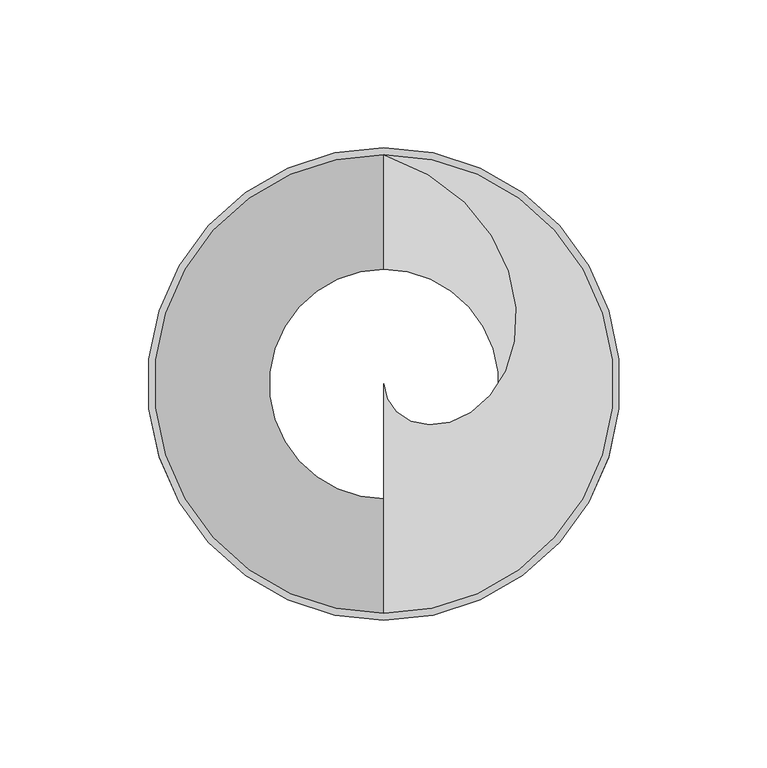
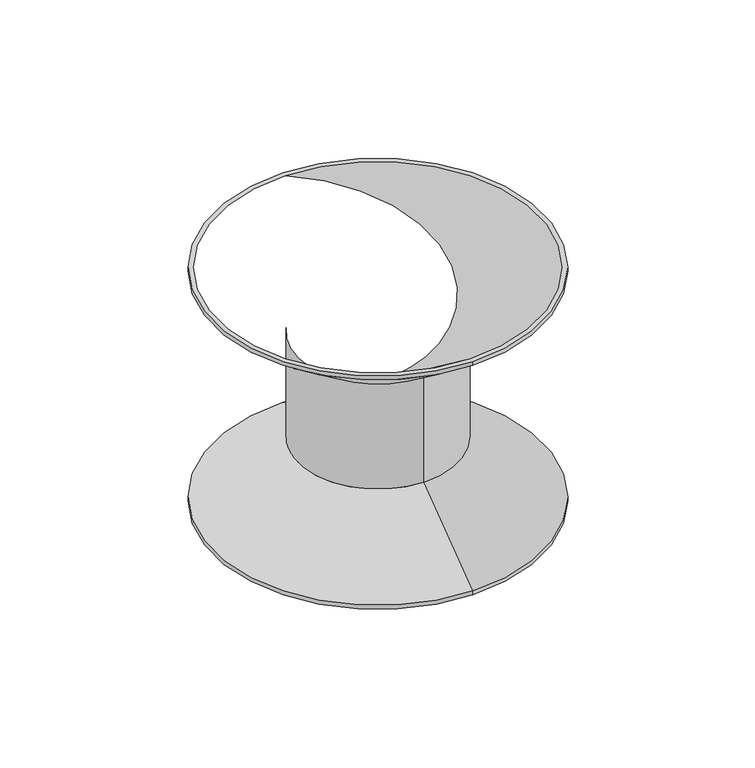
"""IFC4 building model written with IfcOpenShell, lengths in millimetres: proxy geometry, LFLO-MEXX-001."""

import ifcopenshell
import ifcopenshell.guid

model = None  # the IFC model being written
_history = None  # IfcOwnerHistory: only IFC2X3 demands one
_inside = {}  # id of a spatial element -> (the spatial element, [elements in it])
_under = {}  # id of a project, library or spatial element -> (it, [spatial elements below it])
_declared = {}  # id of a project -> (the project, [libraries it declares])
_typed = {}  # id of a type object -> (the type object, [elements of that type])
_made_of = {}  # id of a material, layer set ... -> (it, [elements and type objects made of it])


def new_model(schema):
    """Start an empty IFC model of exactly this schema.

    Asked for "IFC4X3", IfcOpenShell would pick the latest addendum, in which some entities
    have other attributes; the version numbers below select the first issue.
    IFC2X3 requires an IfcOwnerHistory on every rooted entity: one is made here for all.
    """
    global model, _history
    if schema == "IFC4X3":
        model = ifcopenshell.file(schema_version=(4, 3, 0, 0))
    else:
        model = ifcopenshell.file(schema=schema)
    _inside.clear()
    _under.clear()
    _declared.clear()
    _typed.clear()
    _made_of.clear()
    _history = None
    if model.schema == "IFC2X3":
        org = make("IfcOrganization", Name="unknown")
        user = make(
            "IfcPersonAndOrganization",
            ThePerson=make("IfcPerson", FamilyName="unknown"),
            TheOrganization=org,
        )
        app = make(
            "IfcApplication",
            ApplicationDeveloper=org,
            Version="unknown",
            ApplicationFullName="unknown",
            ApplicationIdentifier="unknown",
        )
        _history = make(
            "IfcOwnerHistory",
            OwningUser=user,
            OwningApplication=app,
            ChangeAction="ADDED",
            CreationDate=0,
        )
    return model


def make(cls, **values):
    """One entity of the class cls with the attributes given. An attribute that is None is left unset."""
    return model.create_entity(
        cls, **{name: value for name, value in values.items() if value is not None}
    )


def rooted(cls, **values):
    """An entity with a GlobalId (a new one), such as an element, a storey or a relation."""
    return make(cls, GlobalId=ifcopenshell.guid.new(), OwnerHistory=_history, **values)


def si_unit(unit_type, name, prefix=None):
    """IfcSIUnit, for example si_unit("LENGTHUNIT", "METRE", prefix="MILLI")."""
    return make("IfcSIUnit", UnitType=unit_type, Prefix=prefix, Name=name)


def assignment(units):
    """IfcUnitAssignment: the units of a project."""
    return None if units is None else make("IfcUnitAssignment", Units=units)


def point(xyz):
    """IfcCartesianPoint."""
    return None if xyz is None else make("IfcCartesianPoint", Coordinates=xyz)


def direction(xyz):
    """IfcDirection."""
    return None if xyz is None else make("IfcDirection", DirectionRatios=xyz)


def frame(location, z_axis=None, x_axis=None):
    """IfcAxis2Placement3D, a coordinate frame: its origin and axes. An axis left out is left unset."""
    return make(
        "IfcAxis2Placement3D",
        Location=point(location),
        Axis=direction(z_axis),
        RefDirection=direction(x_axis),
    )


def origin():
    """The frame at (0, 0, 0) with its axes left unset."""
    return frame((0.0, 0.0, 0.0))


def place(relative_to, where):
    """IfcLocalPlacement: puts the frame where relative to a parent placement (None: the world)."""
    return make(
        "IfcLocalPlacement", PlacementRelTo=relative_to, RelativePlacement=where
    )


def context(
    kind, dimensions, precision=None, world=None, true_north=None, identifier=None
):
    """IfcGeometricRepresentationContext, for example the 3D "Model" context."""
    return make(
        "IfcGeometricRepresentationContext",
        ContextIdentifier=identifier,
        ContextType=kind,
        CoordinateSpaceDimension=dimensions,
        Precision=precision,
        WorldCoordinateSystem=world,
        TrueNorth=true_north,
    )


def project(units=None, contexts=None):
    """IfcProject with its units and contexts."""
    return rooted(
        "IfcProject",
        Name="project",
        RepresentationContexts=contexts,
        UnitsInContext=assignment(units),
    )


def spatial(cls, under=None, at=None, **own):
    """A site, building, storey or space (cls), placed at a placement, below another one or the project."""
    s = rooted(cls, ObjectPlacement=at, **own)
    if under is not None:
        _under.setdefault(under.id(), (under, []))[1].append(s)
    return s


def polyline(points):
    """IfcPolyline through the points."""
    return make("IfcPolyline", Points=[point(p) for p in points])


def circle_curve(where, radius):
    """IfcCircle in the frame where."""
    return make("IfcCircle", Position=where, Radius=radius)


def shape(context_of_items, identifier, shape_type, items):
    """IfcShapeRepresentation: the items that make up one representation, for example the "Body"."""
    return make(
        "IfcShapeRepresentation",
        ContextOfItems=context_of_items,
        RepresentationIdentifier=identifier,
        RepresentationType=shape_type,
        Items=items,
    )


def source(mapping_origin, context_of_items, identifier, shape_type, items):
    """IfcRepresentationMap: a shape defined once, which mapped items show again and again."""
    return make(
        "IfcRepresentationMap",
        MappingOrigin=mapping_origin,
        MappedRepresentation=shape(context_of_items, identifier, shape_type, items),
    )


def transform(
    local_origin,
    x_axis=None,
    y_axis=None,
    z_axis=None,
    scale=None,
    scale2=None,
    scale3=None,
    uniform=True,
):
    """IfcCartesianTransformationOperator3D, or its non-uniform kind. x_axis, y_axis, z_axis: its Axis1, 2, 3."""
    if uniform:
        return make(
            "IfcCartesianTransformationOperator3D",
            Axis1=direction(x_axis),
            Axis2=direction(y_axis),
            LocalOrigin=point(local_origin),
            Scale=scale,
            Axis3=direction(z_axis),
        )
    return make(
        "IfcCartesianTransformationOperator3DnonUniform",
        Axis1=direction(x_axis),
        Axis2=direction(y_axis),
        LocalOrigin=point(local_origin),
        Scale=scale,
        Axis3=direction(z_axis),
        Scale2=scale2,
        Scale3=scale3,
    )


def mapped(mapping_source, mapping_target):
    """IfcMappedItem: shows the shape of a source again, moved by a transform."""
    return make(
        "IfcMappedItem", MappingSource=mapping_source, MappingTarget=mapping_target
    )


def made_of(thing, what):
    """Note that an element or type object is made of a material, layer set ...; save() writes the relation."""
    if what is not None:
        _made_of.setdefault(what.id(), (what, []))[1].append(thing)
    return thing


def element(
    cls,
    number,
    at=None,
    inside=None,
    cuts=None,
    type_object=None,
    material=None,
    context=None,
    identifier="Body",
    shape_type=None,
    held_by="IfcProductDefinitionShape",
    body=None,
    shapes=None,
    **own,
):
    """One element of the class cls, such as IfcWall. Its Tag is "e" and its number.

    at: its placement. inside: the storey or other place that contains it. cuts: it is an
    opening in that element (IfcRelVoidsElement). A single representation is given by context,
    identifier, shape_type and body (its items); several are given by shapes. held_by: the class
    of the entity that holds the representations. save() writes the other relations.
    """
    e = rooted(cls, Tag="e%d" % number, ObjectPlacement=at, **own)
    if body is not None:
        shapes = [shape(context, identifier, shape_type, body)]
    if shapes is not None:
        e.Representation = make(held_by, Representations=shapes)
    if inside is not None:
        _inside.setdefault(inside.id(), (inside, []))[1].append(e)
    if cuts is not None:
        rooted(
            "IfcRelVoidsElement", RelatingBuildingElement=cuts, RelatedOpeningElement=e
        )
    if type_object is not None:
        _typed.setdefault(type_object.id(), (type_object, []))[1].append(e)
    return made_of(e, material)


def aggregate(whole, parts):
    """IfcRelAggregates: a whole, such as a stair, and the parts it consists of."""
    return rooted("IfcRelAggregates", RelatingObject=whole, RelatedObjects=parts)


def save(model, path):
    """Write the relations noted so far, then the file.

    IfcRelAggregates (storeys below a building ...), IfcRelContainedInSpatialStructure (elements
    in a storey), IfcRelDefinesByType, IfcRelAssociatesMaterial and IfcRelDeclares: one each for
    every whole, place, type object, material and project.
    """
    for whole, parts in _under.values():
        aggregate(whole, parts)
    for where, things in _inside.values():
        rooted(
            "IfcRelContainedInSpatialStructure",
            RelatedElements=things,
            RelatingStructure=where,
        )
    for kind, things in _typed.values():
        rooted("IfcRelDefinesByType", RelatedObjects=things, RelatingType=kind)
    for what, things in _made_of.values():
        rooted("IfcRelAssociatesMaterial", RelatedObjects=things, RelatingMaterial=what)
    for by, libraries in _declared.values():
        rooted("IfcRelDeclares", RelatingContext=by, RelatedDefinitions=libraries)
    model.write(path)


def plane_surface(at):
    """IfcPlane: the flat surface through the origin of the frame at, square to its z axis."""
    return make("IfcPlane", Position=at)


def cylinder_surface(at, radius):
    """IfcCylindricalSurface: all points at the distance radius from the z axis of the frame at."""
    return make("IfcCylindricalSurface", Position=at, Radius=radius)


def revolved_surface(curve, axis_point, axis_direction):
    """IfcSurfaceOfRevolution: the curve turned about the line through axis_point along axis_direction."""
    return make(
        "IfcSurfaceOfRevolution",
        SweptCurve=make("IfcArbitraryOpenProfileDef", ProfileType="CURVE", Curve=curve),
        AxisPosition=make("IfcAxis1Placement", Location=point(axis_point), Axis=direction(axis_direction)),
    )


def advanced_brep(points, edges, surfaces, faces):
    """IfcAdvancedBrep: a solid bounded by faces that lie on surfaces and meet in shared edges.

    An edge is (start, end): straight between two places in points (the first is 0);
    or (start, end, curve); or (start, end, curve, False) where it runs against its curve.
    A face is (place in surfaces, loops), or (place, loops, False) where it looks against
    its surface's normal. A loop lists edges by number (the first is 1), with a minus sign
    where the edge is run from its end to its start. The first loop is the outer one.
    """
    corners = [point(p) for p in points]
    vertices = [make("IfcVertexPoint", VertexGeometry=c) for c in corners]
    made = []
    for start, end, *more in edges:
        made.append(
            make(
                "IfcEdgeCurve",
                EdgeStart=vertices[start],
                EdgeEnd=vertices[end],
                EdgeGeometry=more[0] if more else make("IfcPolyline", Points=[corners[start], corners[end]]),
                SameSense=more[1] if len(more) > 1 else True,
            )
        )
    hull = []
    for where, loops, *sense in faces:
        bounds = []
        for j, loop in enumerate(loops):
            ring = [make("IfcOrientedEdge", EdgeElement=made[abs(k) - 1], Orientation=k > 0) for k in loop]
            bounds.append(
                make(
                    "IfcFaceOuterBound" if j == 0 else "IfcFaceBound",
                    Bound=make("IfcEdgeLoop", EdgeList=ring),
                    Orientation=True,
                )
            )
        hull.append(make("IfcAdvancedFace", Bounds=bounds, FaceSurface=surfaces[where], SameSense=sense[0] if sense else True))
    return make("IfcAdvancedBrep", Outer=make("IfcClosedShell", CfsFaces=hull))


def generic_models_78a4a330(model_context):
    return source(origin(), model_context, "Body", "AdvancedBrep", [
        advanced_brep(
        [(0.0, 80.0, 58.0), (0.0, 80.0, 60.0), (0.0, -80.0, 60.0), (0.0, -80.0, 58.0), (0.0, 38.8616105, 27.0), (0.0, -38.8616105, 27.0), (0.0, 38.8616105, -27.0), (0.0, -38.8616105, -27.0), (0.0, 80.0, -58.0), (0.0, -80.0, -58.0), (0.0, 80.0, -60.0), (0.0, -80.0, -60.0), (0.0, 77.6691692, -60.0), (0.0, 0.0, -1.472083), (0.0, -77.6691692, -60.0), (0.0, 0.0, 1.472083), (0.0, 77.6691692, 60.0), (0.0, -77.6691692, 60.0)],
        [
            (0, 1),
            (1, 2, circle_curve(frame((0.0, 0.0, 60.0), z_axis=(0.0, 0.0, -1.0), x_axis=(0.0, 1.0, 0.0)), 80.0)),
            (2, 3),
            (3, 0, circle_curve(frame((0.0, 0.0, 58.0), z_axis=(0.0, 0.0, 1.0), x_axis=(0.0, 1.0, 0.0)), 80.0)),
            (4, 0),
            (3, 5),
            (5, 4, circle_curve(frame((0.0, 0.0, 27.0), z_axis=(0.0, 0.0, 1.0), x_axis=(0.0, -1.0, 0.0)), 38.8616105)),
            (6, 4),
            (5, 7),
            (7, 6, circle_curve(frame((0.0, 0.0, -27.0), z_axis=(0.0, 0.0, 1.0), x_axis=(0.0, 1.0, 0.0)), 38.8616105)),
            (8, 6),
            (7, 9),
            (9, 8, circle_curve(frame((0.0, 0.0, -58.0), z_axis=(0.0, 0.0, 1.0), x_axis=(0.0, -1.0, 0.0)), 80.0)),
            (10, 8),
            (9, 11),
            (11, 10, circle_curve(frame((0.0, 0.0, -60.0), z_axis=(0.0, 0.0, 1.0), x_axis=(0.0, 1.0, 0.0)), 80.0)),
            (12, 13),
            (13, 14),
            (14, 12, circle_curve(frame((0.0, 0.0, -60.0), z_axis=(0.0, 0.0, -1.0), x_axis=(0.0, 1.0, 0.0)), 77.6691692)),
            (15, 16),
            (16, 17, circle_curve(frame((0.0, 0.0, 60.0), z_axis=(0.0, 0.0, 1.0), x_axis=(0.0, 1.0, 0.0)), 77.6691692)),
            (17, 15),
            (17, 16, circle_curve(frame((0.0, 0.0, 60.0), z_axis=(0.0, 0.0, 1.0), x_axis=(0.0, -1.0, 0.0)), 77.6691692)),
            (12, 14, circle_curve(frame((0.0, 0.0, -60.0), z_axis=(0.0, 0.0, -1.0), x_axis=(0.0, -1.0, 0.0)), 77.6691692)),
            (11, 10, circle_curve(frame((0.0, 0.0, -60.0), z_axis=(0.0, 0.0, -1.0), x_axis=(0.0, 1.0, 0.0)), 80.0)),
            (9, 8, circle_curve(frame((0.0, 0.0, -58.0), z_axis=(0.0, 0.0, -1.0), x_axis=(0.0, 1.0, 0.0)), 80.0)),
            (7, 6, circle_curve(frame((0.0, 0.0, -27.0), z_axis=(0.0, 0.0, -1.0), x_axis=(0.0, 1.0, 0.0)), 38.8616105)),
            (5, 4, circle_curve(frame((0.0, 0.0, 27.0), z_axis=(0.0, 0.0, -1.0), x_axis=(0.0, 1.0, 0.0)), 38.8616105)),
            (3, 0, circle_curve(frame((0.0, 0.0, 58.0), z_axis=(0.0, 0.0, -1.0), x_axis=(0.0, 1.0, 0.0)), 80.0)),
            (2, 1, circle_curve(frame((0.0, 0.0, 60.0), z_axis=(0.0, 0.0, -1.0), x_axis=(0.0, 1.0, 0.0)), 80.0)),
        ],
        [
            cylinder_surface(frame((0.0, 0.0, 59.0), z_axis=(0.0, 0.0, 1.0), x_axis=(0.0, 1.0, 0.0)), 80.0),
            revolved_surface(polyline([(0.0, 38.8616105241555, 27.0), (0.0, 80.0, 58.0)]), (0.0, 0.0, -2.284324), (0.0, 0.0, 1.0)),
            cylinder_surface(frame((0.0, 0.0, 0.0), z_axis=(0.0, 0.0, 1.0), x_axis=(0.0, 1.0, 0.0)), 38.8616105),
            revolved_surface(polyline([(0.0, 38.8616105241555, -27.0), (0.0, 80.0, -58.0)]), (0.0, 0.0, 2.284324), (0.0, 0.0, -1.0)),
            cylinder_surface(frame((0.0, 0.0, -59.0), z_axis=(0.0, 0.0, 1.0), x_axis=(0.0, 1.0, 0.0)), 80.0),
            revolved_surface(polyline([(0.0, 77.6691692, -60.0), (0.0, 0.0, -1.472083)]), (0.0, 0.0, -1.472083), (0.0, 0.0, -1.0)),
            revolved_surface(polyline([(0.0, 77.6691692, 60.0), (0.0, 0.0, 1.472083)]), (0.0, 0.0, 1.472083), (0.0, 0.0, 1.0)),
            plane_surface(frame((0.0, 80.0, -60.0), z_axis=(0.0, 0.0, -1.0), x_axis=(-1.0, 0.0, 0.0))),
            plane_surface(frame((0.0, 77.6691692, 60.0), z_axis=(0.0, 0.0, 1.0), x_axis=(1.0, 0.0, 0.0))),
        ],
        [
            (0, [[1, 2, 3, 4]]),
            (1, [[5, -4, 6, 7]]),
            (2, [[8, -7, 9, 10]]),
            (3, [[11, -10, 12, 13]]),
            (4, [[14, -13, 15, 16]]),
            (5, [[17, 18, 19]]),
            (6, [[20, 21, 22]]),
            (6, [[-20, -22, 23]]),
            (5, [[-17, 24, -18]]),
            (7, [[25, -16], [-19, -24]]),
            (4, [[-14, -25, -15, 26]]),
            (3, [[-11, -26, -12, 27]]),
            (2, [[-8, -27, -9, 28]]),
            (1, [[-5, -28, -6, 29]]),
            (0, [[-1, -29, -3, 30]]),
            (8, [[-30, -2], [-21, -23]]),
        ],
    ),
    ])


if __name__ == "__main__":
    model = new_model("IFC4")
    model_context = context("Model", 3, world=origin())
    ifc_project = project(units=[si_unit("LENGTHUNIT", "METRE", prefix="MILLI")], contexts=[model_context])
    site = spatial("IfcSite", under=ifc_project)
    building = spatial("IfcBuilding", under=site)
    placement = place(None, origin())
    generic_models_shape = generic_models_78a4a330(model_context)
    element("IfcBuildingElementProxy", 1, Name="LFLO-MEXX-001", ObjectType="LFLO-MEXX-001", at=placement, inside=building, context=model_context, shape_type="MappedRepresentation", body=[
        mapped(generic_models_shape, transform((0.0, 0.0, 0.0), x_axis=(1.0, 0.0, 0.0), y_axis=(0.0, 1.0, 0.0), z_axis=(0.0, 0.0, 1.0))),
    ])
    save(model, "model.ifc")
